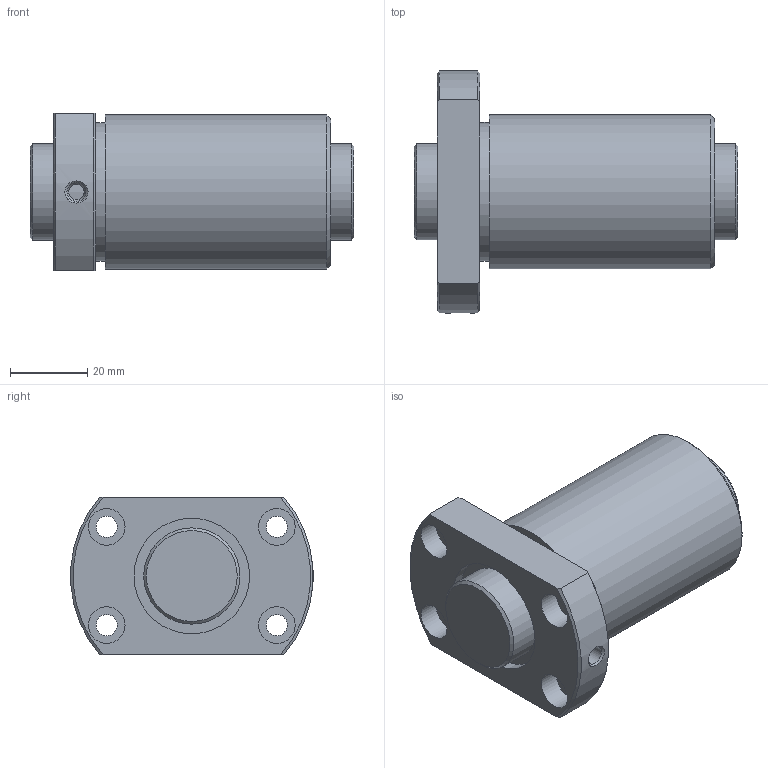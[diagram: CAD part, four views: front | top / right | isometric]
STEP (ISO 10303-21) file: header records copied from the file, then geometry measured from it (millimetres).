
FILE_DESCRIPTION(/* description */ ('STEP AP203'),/* implementation_level */ '2;1');
FILE_NAME(/* name */ 'DIK2506-6RRG0+84LC0_000',/* time_stamp */ '2025-01-13T09:53:31+01:00',/* author */ ('License CC BY-ND 4.0'),/* organization */ ('CADENAS'),/* preprocessor_version */ 'ST-DEVELOPER v19.3',/* originating_system */ 'PARTsolutions',/* authorisation */ ' ');
FILE_SCHEMA (('CONFIG_CONTROL_DESIGN'));
Length unit declared in the file: millimetre
Products named in the file (3): DIK2506-6RRG0+84LC0_000; DIK 2506-6RR08400 Shaft; DIK 2506-6RR Nut
Assembly tree (2 placements, depth 2):
  DIK2506-6RRG0+84LC0_000
    DIK 2506-6RR08400 Shaft
    DIK 2506-6RR Nut
Bounding box: 84 x 62.9 x 41 mm (x, y, z)
Volume: 104503.2 mm3; surface area: 28128.2 mm2
Topology: 2 solids, 2 shells, 41 faces, 83 edges, 54 vertices
Faces by surface type: cylinder 18, plane 14, cone 9
Full cylindrical faces by diameter (mm): 4 x1, 4.917 x1, 5.5 x4, 9.5 x4, 25 x2, 30 x2, 36 x1, 40 x1
Entity records: 1087 total; most frequent: CARTESIAN_POINT 200, DIRECTION 180, ORIENTED_EDGE 120, AXIS2_PLACEMENT_3D 86, EDGE_LOOP 82, FACE_BOUND 82, EDGE_CURVE 60, VERTEX_POINT 52
